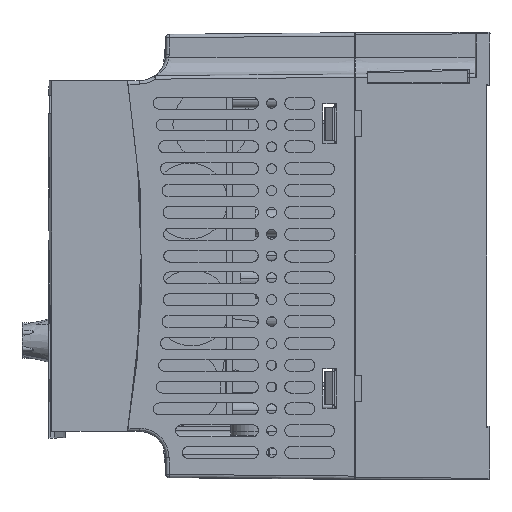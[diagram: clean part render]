
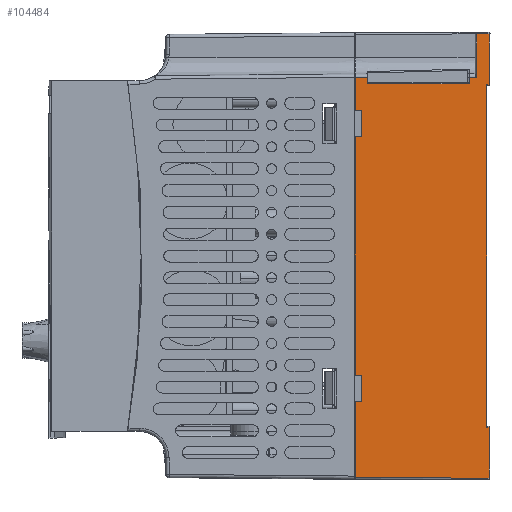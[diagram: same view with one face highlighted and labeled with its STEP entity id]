
A CAD part, left-side view. The second image highlights one B-rep face of the part: STEP entity #104484.
In plain terms, the highlighted planar face has unit normal (-1, 0.004, 0) as drawn and (-1, 0, -0.003) by its records, which use the part's own axes.
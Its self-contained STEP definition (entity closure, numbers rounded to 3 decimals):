
#91786=CARTESIAN_POINT('',(-36.201,-67.001,
6.299));
#91799=DIRECTION('',(0.003,0.003,-1.));
#91800=VECTOR('',#91799,40.4);
#91801=CARTESIAN_POINT('',(-36.342,-67.142,
46.699));
#91802=LINE('',#91801,#91800);
#92035=DIRECTION('',(0.,-1.,0.));
#92036=VECTOR('',#92035,10.);
#92037=CARTESIAN_POINT('',(-36.201,54.,
6.299));
#92038=LINE('',#92037,#92036);
#92039=DIRECTION('',(0.,1.,0.));
#92040=VECTOR('',#92039,15.342);
#92041=CARTESIAN_POINT('',(-36.342,51.8,46.699));
#92042=LINE('',#92041,#92040);
#92043=DIRECTION('',(-0.003,0.,1.));
#92044=VECTOR('',#92043,0.699);
#92045=CARTESIAN_POINT('',(-36.34,51.8,46.));
#92046=LINE('',#92045,#92044);
#92047=DIRECTION('',(0.003,0.,-1.));
#92048=VECTOR('',#92047,0.699);
#92049=CARTESIAN_POINT('',(-36.342,-51.8,46.699));
#92050=LINE('',#92049,#92048);
#92051=DIRECTION('',(0.,1.,0.));
#92052=VECTOR('',#92051,15.342);
#92053=CARTESIAN_POINT('',(-36.342,-67.142,
46.699));
#92054=LINE('',#92053,#92052);
#92055=DIRECTION('',(0.,-1.,0.));
#92056=VECTOR('',#92055,23.001);
#92057=CARTESIAN_POINT('',(-36.201,-44.,6.299));
#92058=LINE('',#92057,#92056);
#92059=DIRECTION('',(-0.003,0.,1.));
#92060=VECTOR('',#92059,1.901);
#92061=CARTESIAN_POINT('',(-36.201,-44.,6.299));
#92062=LINE('',#92061,#92060);
#92063=DIRECTION('',(0.,1.,0.));
#92064=VECTOR('',#92063,8.);
#92065=CARTESIAN_POINT('',(-36.208,-44.,8.2));
#92066=LINE('',#92065,#92064);
#92067=DIRECTION('',(-0.003,0.,1.));
#92068=VECTOR('',#92067,1.901);
#92069=CARTESIAN_POINT('',(-36.201,-36.,6.299));
#92070=LINE('',#92069,#92068);
#92071=DIRECTION('',(0.,-1.,0.));
#92072=VECTOR('',#92071,72.);
#92073=CARTESIAN_POINT('',(-36.201,36.,6.299));
#92074=LINE('',#92073,#92072);
#92075=DIRECTION('',(-0.003,0.,1.));
#92076=VECTOR('',#92075,1.901);
#92077=CARTESIAN_POINT('',(-36.201,36.,6.299));
#92078=LINE('',#92077,#92076);
#92079=DIRECTION('',(0.,1.,0.));
#92080=VECTOR('',#92079,8.);
#92081=CARTESIAN_POINT('',(-36.208,36.,8.2));
#92082=LINE('',#92081,#92080);
#92083=DIRECTION('',(-0.003,0.,1.));
#92084=VECTOR('',#92083,1.901);
#92085=CARTESIAN_POINT('',(-36.201,44.,6.299));
#92086=LINE('',#92085,#92084);
#92096=DIRECTION('',(0.003,0.,-1.));
#92097=VECTOR('',#92096,2.3);
#92098=CARTESIAN_POINT('',(-36.329,54.,42.998));
#92099=LINE('',#92098,#92097);
#92109=DIRECTION('',(0.003,0.,-1.));
#92110=VECTOR('',#92109,3.701);
#92111=CARTESIAN_POINT('',(-36.214,54.,10.));
#92112=LINE('',#92111,#92110);
#94163=DIRECTION('',(0.,1.,0.));
#94164=VECTOR('',#94163,103.6);
#94165=CARTESIAN_POINT('',(-36.34,-51.8,46.));
#94166=LINE('',#94165,#94164);
#94349=DIRECTION('',(-0.003,0.003,1.));
#94350=VECTOR('',#94349,3.701);
#94351=CARTESIAN_POINT('',(-36.329,67.129,
42.998));
#94352=LINE('',#94351,#94350);
#94443=DIRECTION('',(0.,1.,0.));
#94444=VECTOR('',#94443,13.129);
#94445=CARTESIAN_POINT('',(-36.329,54.,42.998));
#94446=LINE('',#94445,#94444);
#94447=CARTESIAN_POINT('',(-36.329,54.,42.998));
#94700=DIRECTION('',(0.,1.,0.));
#94701=VECTOR('',#94700,2.);
#94702=CARTESIAN_POINT('',(-36.214,52.,10.));
#94703=LINE('',#94702,#94701);
#98049=CARTESIAN_POINT('',(-36.34,51.8,46.));
#98227=DIRECTION('',(0.003,0.,-1.));
#98228=VECTOR('',#98227,30.698);
#98229=CARTESIAN_POINT('',(-36.321,52.,40.698));
#98230=LINE('',#98229,#98228);
#98231=CARTESIAN_POINT('',(-36.214,52.,10.));
#98241=DIRECTION('',(0.,1.,0.));
#98242=VECTOR('',#98241,2.);
#98243=CARTESIAN_POINT('',(-36.321,52.,40.698));
#98244=LINE('',#98243,#98242);
#99555=CARTESIAN_POINT('',(-36.208,-44.,8.2));
#99556=CARTESIAN_POINT('',(-36.208,-36.,8.2));
#99557=VERTEX_POINT('',#99555);
#99558=VERTEX_POINT('',#99556);
#99559=CARTESIAN_POINT('',(-36.208,36.,8.2));
#99560=CARTESIAN_POINT('',(-36.208,44.,8.2));
#99561=VERTEX_POINT('',#99559);
#99562=VERTEX_POINT('',#99560);
#99613=CARTESIAN_POINT('',(-36.214,54.,10.));
#99614=VERTEX_POINT('',#99613);
#99789=VERTEX_POINT('',#94447);
#99790=VERTEX_POINT('',#98231);
#99801=CARTESIAN_POINT('',(-36.321,52.,40.698));
#99802=CARTESIAN_POINT('',(-36.321,54.,
40.698));
#99803=VERTEX_POINT('',#99801);
#99804=VERTEX_POINT('',#99802);
#99873=CARTESIAN_POINT('',(-36.329,67.129,
42.998));
#99874=VERTEX_POINT('',#99873);
#99882=CARTESIAN_POINT('',(-36.201,44.,6.299));
#99884=VERTEX_POINT('',#99882);
#99888=CARTESIAN_POINT('',(-36.201,54.,
6.299));
#99889=VERTEX_POINT('',#99888);
#99918=CARTESIAN_POINT('',(-36.201,-36.,6.299));
#99920=VERTEX_POINT('',#99918);
#99924=CARTESIAN_POINT('',(-36.201,36.,6.299));
#99925=VERTEX_POINT('',#99924);
#99964=VERTEX_POINT('',#91786);
#99967=CARTESIAN_POINT('',(-36.201,-44.,6.299));
#99969=VERTEX_POINT('',#99967);
#100499=VERTEX_POINT('',#98049);
#100506=CARTESIAN_POINT('',(-36.342,-51.8,46.699));
#100507=CARTESIAN_POINT('',(-36.34,-51.8,46.));
#100508=VERTEX_POINT('',#100506);
#100509=VERTEX_POINT('',#100507);
#100512=CARTESIAN_POINT('',(-36.342,-67.142,
46.699));
#100513=VERTEX_POINT('',#100512);
#100711=CARTESIAN_POINT('',(-36.342,51.8,46.699));
#100712=VERTEX_POINT('',#100711);
#100717=CARTESIAN_POINT('',(-36.342,67.142,
46.699));
#100718=VERTEX_POINT('',#100717);
#104436=CARTESIAN_POINT('',(-36.2,69.483,6.));
#104437=DIRECTION('',(-1.,0.,-0.003));
#104438=DIRECTION('',(0.,1.,0.));
#104439=AXIS2_PLACEMENT_3D('',#104436,#104437,#104438);
#104440=PLANE('',#104439);
#104441=ORIENTED_EDGE('',*,*,#104415,.F.);
#104443=ORIENTED_EDGE('',*,*,#104442,.F.);
#104445=ORIENTED_EDGE('',*,*,#104444,.F.);
#104447=ORIENTED_EDGE('',*,*,#104446,.F.);
#104449=ORIENTED_EDGE('',*,*,#104448,.T.);
#104451=ORIENTED_EDGE('',*,*,#104450,.F.);
#104453=ORIENTED_EDGE('',*,*,#104452,.T.);
#104455=ORIENTED_EDGE('',*,*,#104454,.T.);
#104457=ORIENTED_EDGE('',*,*,#104456,.F.);
#104459=ORIENTED_EDGE('',*,*,#104458,.F.);
#104461=ORIENTED_EDGE('',*,*,#104460,.F.);
#104463=ORIENTED_EDGE('',*,*,#104462,.F.);
#104465=ORIENTED_EDGE('',*,*,#104464,.F.);
#104466=ORIENTED_EDGE('',*,*,#104197,.T.);
#104468=ORIENTED_EDGE('',*,*,#104467,.F.);
#104470=ORIENTED_EDGE('',*,*,#104469,.T.);
#104472=ORIENTED_EDGE('',*,*,#104471,.T.);
#104474=ORIENTED_EDGE('',*,*,#104473,.F.);
#104476=ORIENTED_EDGE('',*,*,#104475,.F.);
#104478=ORIENTED_EDGE('',*,*,#104477,.T.);
#104480=ORIENTED_EDGE('',*,*,#104479,.T.);
#104481=ORIENTED_EDGE('',*,*,#104426,.F.);
#104482=EDGE_LOOP('',(#104441,#104443,#104445,#104447,#104449,#104451,#104453,
#104455,#104457,#104459,#104461,#104463,#104465,#104466,#104468,#104470,#104472,
#104474,#104476,#104478,#104480,#104481));
#104483=FACE_OUTER_BOUND('',#104482,.F.);
#104484=ADVANCED_FACE('',(#104483),#104440,.T.);
#104197=EDGE_CURVE('',#100513,#99964,#91802,.T.);
#104415=EDGE_CURVE('',#99889,#99884,#92038,.T.);
#104426=EDGE_CURVE('',#99884,#99562,#92086,.T.);
#104442=EDGE_CURVE('',#99614,#99889,#92112,.T.);
#104444=EDGE_CURVE('',#99790,#99614,#94703,.T.);
#104446=EDGE_CURVE('',#99803,#99790,#98230,.T.);
#104448=EDGE_CURVE('',#99803,#99804,#98244,.T.);
#104450=EDGE_CURVE('',#99789,#99804,#92099,.T.);
#104452=EDGE_CURVE('',#99789,#99874,#94446,.T.);
#104454=EDGE_CURVE('',#99874,#100718,#94352,.T.);
#104456=EDGE_CURVE('',#100712,#100718,#92042,.T.);
#104458=EDGE_CURVE('',#100499,#100712,#92046,.T.);
#104460=EDGE_CURVE('',#100509,#100499,#94166,.T.);
#104462=EDGE_CURVE('',#100508,#100509,#92050,.T.);
#104464=EDGE_CURVE('',#100513,#100508,#92054,.T.);
#104467=EDGE_CURVE('',#99969,#99964,#92058,.T.);
#104469=EDGE_CURVE('',#99969,#99557,#92062,.T.);
#104471=EDGE_CURVE('',#99557,#99558,#92066,.T.);
#104473=EDGE_CURVE('',#99920,#99558,#92070,.T.);
#104475=EDGE_CURVE('',#99925,#99920,#92074,.T.);
#104477=EDGE_CURVE('',#99925,#99561,#92078,.T.);
#104479=EDGE_CURVE('',#99561,#99562,#92082,.T.);
